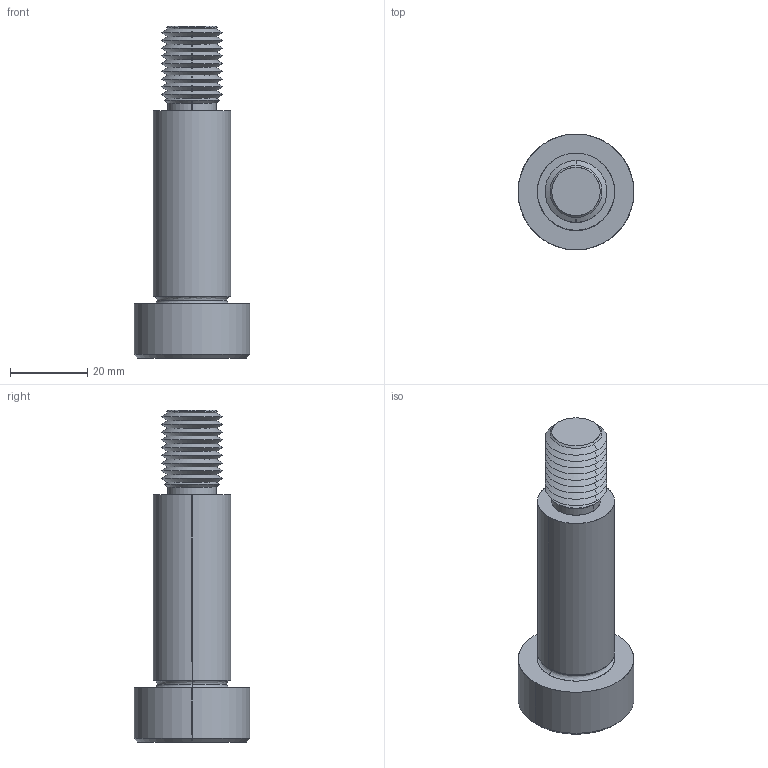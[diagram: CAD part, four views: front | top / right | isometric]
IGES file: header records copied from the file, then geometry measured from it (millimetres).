
Start section: SolidWorks IGES file using analytic representation for surfaces
Global section: file name: C:\Users\IanO\Documents\Temp Folder\GENERAL\SCREW REVISION\P0130_v2\P0130.T5_v2_20220106_IGES\P0130.200-050-T5.igs; native system: SolidWorks 2019; preprocessor: SolidWorks 2019; author: IanO; date: 220106.230026; units: millimetre
Bounding box: 30 x 30 x 86 mm (x, y, z)
Surface area: 8059.6 mm2 (no closed solid volume)
Topology: 0 solids, 0 shells, 80 faces, 692 edges, 690 vertices
Faces by surface type: revolution 60, bspline 20
